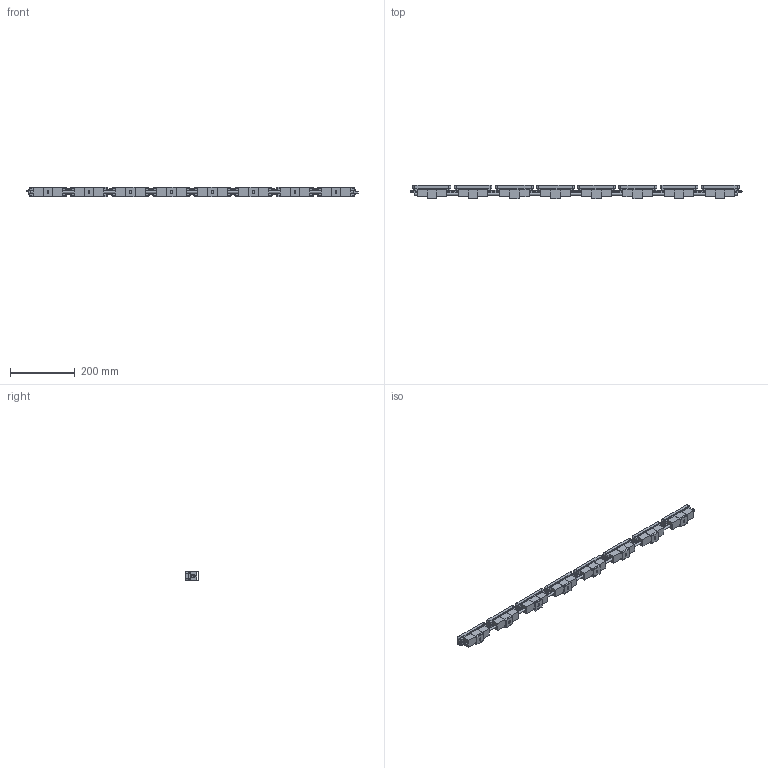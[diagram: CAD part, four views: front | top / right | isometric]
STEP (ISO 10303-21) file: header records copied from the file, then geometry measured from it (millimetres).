
FILE_DESCRIPTION (( 'STEP AP214' ), '1' );
FILE_NAME ('Linear Flex - Straight bracket.STEP', '2025-08-21T14:31:46', ( '' ), ( '' ), 'SwSTEP 2.0', 'SolidWorks 2025', '' );
FILE_SCHEMA (( 'AUTOMOTIVE_DESIGN' ));
Length unit declared in the file: millimetre
Products named in the file (6): Linear Flex - Coupling screw_Recessed; Linear Flex - Straight bracket; Linear Flex - Coupling ring and nut; Linear Flex - Body; Part28^Linear Flex_Wireless; Linear Flex - Clip - Straight_Grey
Assembly tree (31 placements, depth 2):
  Linear Flex - Straight bracket
    Linear Flex - Body  x8
    Linear Flex - Coupling screw_Recessed  x7
    Linear Flex - Coupling ring and nut  x7
    Part28^Linear Flex_Wireless
    Linear Flex - Clip - Straight_Grey  x8
Bounding box: 1028 x 42.36 x 30.1 mm (x, y, z)
Volume: 819281.2 mm3; surface area: 230374.4 mm2
Topology: 38 solids, 38 shells, 1630 faces, 4078 edges, 2628 vertices
Faces by surface type: plane 915, cylinder 624, cone 77, torus 14
Full cylindrical faces by diameter (mm): 4 x7, 5 x16, 6.5 x9, 7 x16
Entity records: 7385 total; most frequent: DIRECTION 1194, CARTESIAN_POINT 1189, ORIENTED_EDGE 1030, EDGE_CURVE 515, AXIS2_PLACEMENT_3D 437, VERTEX_POINT 336, VECTOR 320, LINE 320
